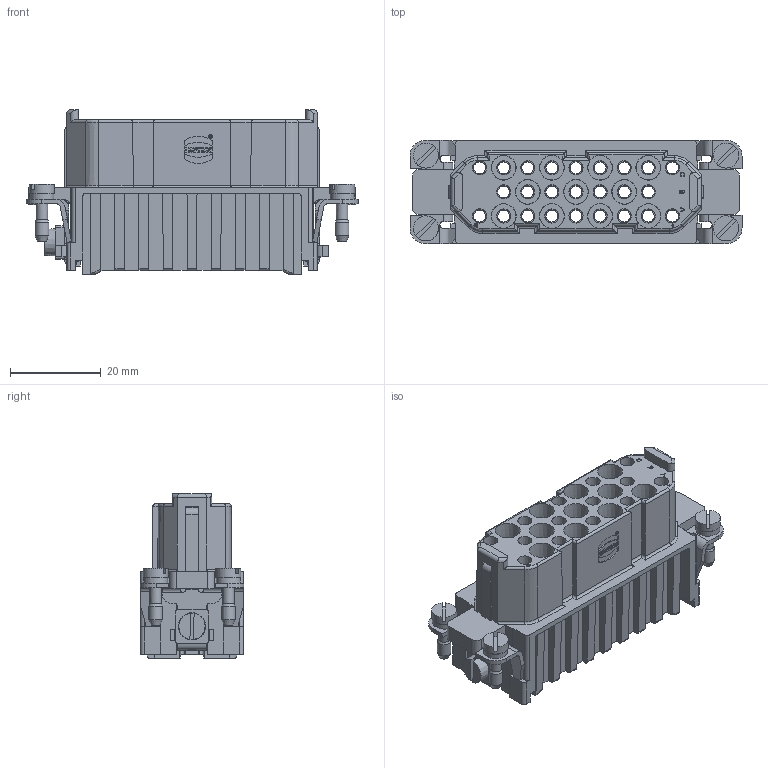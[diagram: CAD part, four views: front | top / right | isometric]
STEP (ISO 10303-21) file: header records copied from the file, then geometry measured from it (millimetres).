
FILE_DESCRIPTION(/* description */ (''),/* implementation_level */ '2;1');
FILE_NAME(/* name */ '100542397ugm000_e.stp',/* time_stamp */ '2022-03-11T18:32:11+01:00',/* author */ (''),/* organization */ (''),/* preprocessor_version */ 'ST-DEVELOPER v16.7',/* originating_system */ 'SIEMENS PLM Software NX 1911',/* authorisation */ '');
FILE_SCHEMA (('AUTOMOTIVE_DESIGN { 1 0 10303 214 3 1 1 1 }'));
Length unit declared in the file: millimetre
Products named in the file (1): 100542397ugm000_e
Bounding box: 73 x 22.8 x 36.15 mm (x, y, z)
Volume: 21498.9 mm3; surface area: 22965 mm2
Topology: 1 solids, 2 shells, 1106 faces, 3004 edges, 2065 vertices
Faces by surface type: plane 652, cylinder 263, cone 137, extrusion 30, bspline 12, torus 12
Full cylindrical faces by diameter (mm): 0.683 x1, 0.807 x1, 2.3 x2, 2.5 x4, 2.57 x4, 2.62 x25, 2.85 x1, 3 x5, 3.5 x1, 3.67 x25, 4 x2, 5.3 x4, 5.5 x4
Entity records: 42856 total; most frequent: CARTESIAN_POINT 8459, DIRECTION 5396, ORIENTED_EDGE 5254, EDGE_CURVE 2627, VECTOR 1814, VERTEX_POINT 1812, AXIS2_PLACEMENT_3D 1791, LINE 1784
